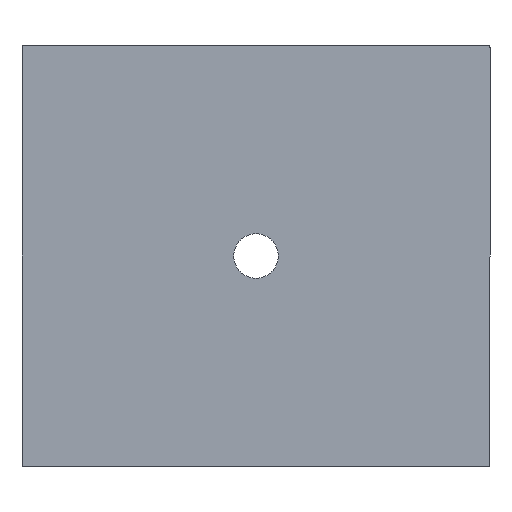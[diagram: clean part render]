
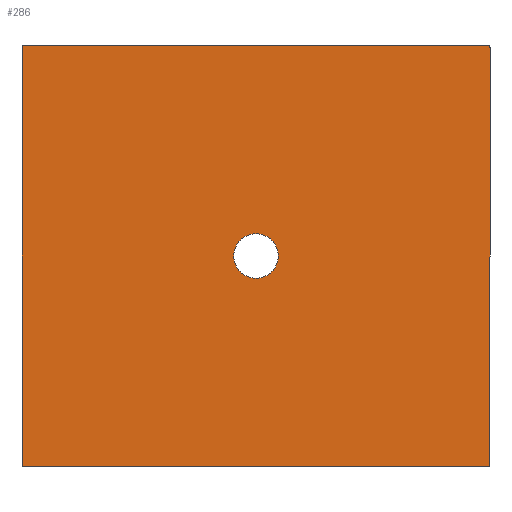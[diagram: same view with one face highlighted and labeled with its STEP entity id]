
A CAD part, front view. The second image highlights one B-rep face of the part: STEP entity #286.
In plain terms, the highlighted planar face has unit normal (0, -1, 0).
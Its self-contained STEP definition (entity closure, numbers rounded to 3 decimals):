
#61 = VERTEX_POINT ( 'NONE', #2167 ) ;
#78 = CARTESIAN_POINT ( 'NONE',  ( -500., 0., 445.001 ) ) ;
#120 = CARTESIAN_POINT ( 'NONE',  ( -500., 0., 445.001 ) ) ;
#146 = CARTESIAN_POINT ( 'NONE',  ( 0., 0., -47.5 ) ) ;
#177 = ORIENTED_EDGE ( 'NONE', *, *, #2613, .T. ) ;
#237 = EDGE_CURVE ( 'NONE', #61, #1786, #2459, .T. ) ;
#270 = PLANE ( 'NONE',  #3052 ) ;
#286 = ADVANCED_FACE ( 'NONE', ( #340, #320 ), #270, .F. ) ;
#289 = LINE ( 'NONE', #1175, #718 ) ;
#300 = DIRECTION ( 'NONE',  ( 0., 0., 1. ) ) ;
#320 = FACE_OUTER_BOUND ( 'NONE', #1452, .T. ) ;
#326 = VERTEX_POINT ( 'NONE', #1502 ) ;
#340 = FACE_BOUND ( 'NONE', #865, .T. ) ;
#360 = VERTEX_POINT ( 'NONE', #1038 ) ;
#461 =( BOUNDED_CURVE ( )  B_SPLINE_CURVE ( 3, ( #1297, #1794, #1809, #120 ),
 .UNSPECIFIED., .F., .T. ) 
 B_SPLINE_CURVE_WITH_KNOTS ( ( 4, 4 ),
 ( 5.498, 7.068 ),
 .UNSPECIFIED. ) 
 CURVE ( )  GEOMETRIC_REPRESENTATION_ITEM ( )  RATIONAL_B_SPLINE_CURVE ( ( 1., 0.805, 0.805, 1. ) ) 
 REPRESENTATION_ITEM ( '' )  );
#620 = CARTESIAN_POINT ( 'NONE',  ( -500., 0., -447.929 ) ) ;
#681 = ORIENTED_EDGE ( 'NONE', *, *, #2781, .T. ) ;
#718 = VECTOR ( 'NONE', #2186, 1000. ) ;
#758 = AXIS2_PLACEMENT_3D ( 'NONE', #2559, #1346, #1409 ) ;
#793 = CARTESIAN_POINT ( 'NONE',  ( 500., 0., -450. ) ) ;
#834 = VERTEX_POINT ( 'NONE', #3010 ) ;
#865 = EDGE_LOOP ( 'NONE', ( #2502 ) ) ;
#879 = ORIENTED_EDGE ( 'NONE', *, *, #237, .F. ) ;
#959 = ORIENTED_EDGE ( 'NONE', *, *, #1397, .F. ) ;
#973 = CARTESIAN_POINT ( 'NONE',  ( -500., 0., -445.001 ) ) ;
#1007 = ORIENTED_EDGE ( 'NONE', *, *, #1450, .T. ) ;
#1009 = CARTESIAN_POINT ( 'NONE',  ( 500., 0., -447.929 ) ) ;
#1026 = CARTESIAN_POINT ( 'NONE',  ( 497.929, 0., -450. ) ) ;
#1038 = CARTESIAN_POINT ( 'NONE',  ( 495.001, 0., -450. ) ) ;
#1043 = VERTEX_POINT ( 'NONE', #973 ) ;
#1096 =( BOUNDED_CURVE ( )  B_SPLINE_CURVE ( 3, ( #1456, #2418, #2685, #2954 ),
 .UNSPECIFIED., .F., .T. ) 
 B_SPLINE_CURVE_WITH_KNOTS ( ( 4, 4 ),
 ( 5.498, 7.068 ),
 .UNSPECIFIED. ) 
 CURVE ( )  GEOMETRIC_REPRESENTATION_ITEM ( )  RATIONAL_B_SPLINE_CURVE ( ( 1., 0.805, 0.805, 1. ) ) 
 REPRESENTATION_ITEM ( '' )  );
#1098 = CARTESIAN_POINT ( 'NONE',  ( 495.001, 0., 450. ) ) ;
#1138 = ORIENTED_EDGE ( 'NONE', *, *, #1599, .F. ) ;
#1175 = CARTESIAN_POINT ( 'NONE',  ( 500., 0., 450. ) ) ;
#1259 = EDGE_CURVE ( 'NONE', #2487, #2487, #2205, .T. ) ;
#1266 = DIRECTION ( 'NONE',  ( 1., 0., 0. ) ) ;
#1297 = CARTESIAN_POINT ( 'NONE',  ( -495.001, 0., 450. ) ) ;
#1323 = CARTESIAN_POINT ( 'NONE',  ( -495.001, 0., -450. ) ) ;
#1346 = DIRECTION ( 'NONE',  ( 0., -1., 0. ) ) ;
#1397 = EDGE_CURVE ( 'NONE', #360, #2390, #2730, .T. ) ;
#1409 = DIRECTION ( 'NONE',  ( 0., 0., -1. ) ) ;
#1411 =( BOUNDED_CURVE ( )  B_SPLINE_CURVE ( 3, ( #2702, #1026, #1009, #2055 ),
 .UNSPECIFIED., .F., .T. ) 
 B_SPLINE_CURVE_WITH_KNOTS ( ( 4, 4 ),
 ( 5.498, 7.068 ),
 .UNSPECIFIED. ) 
 CURVE ( )  GEOMETRIC_REPRESENTATION_ITEM ( )  RATIONAL_B_SPLINE_CURVE ( ( 1., 0.805, 0.805, 1. ) ) 
 REPRESENTATION_ITEM ( '' )  );
#1450 = EDGE_CURVE ( 'NONE', #61, #2700, #461, .T. ) ;
#1452 = EDGE_LOOP ( 'NONE', ( #959, #2563, #2816, #177, #879, #1007, #1138, #681 ) ) ;
#1456 = CARTESIAN_POINT ( 'NONE',  ( 500., 0., 445.001 ) ) ;
#1502 = CARTESIAN_POINT ( 'NONE',  ( 500., 0., 445.001 ) ) ;
#1556 = DIRECTION ( 'NONE',  ( -1., 0., 0. ) ) ;
#1599 = EDGE_CURVE ( 'NONE', #1043, #2700, #2091, .T. ) ;
#1647 = CARTESIAN_POINT ( 'NONE',  ( -500., 0., -450. ) ) ;
#1786 = VERTEX_POINT ( 'NONE', #1098 ) ;
#1794 = CARTESIAN_POINT ( 'NONE',  ( -497.929, 0., 450. ) ) ;
#1809 = CARTESIAN_POINT ( 'NONE',  ( -500., 0., 447.929 ) ) ;
#2055 = CARTESIAN_POINT ( 'NONE',  ( 500., 0., -445.001 ) ) ;
#2091 = LINE ( 'NONE', #1647, #2957 ) ;
#2167 = CARTESIAN_POINT ( 'NONE',  ( -495.001, 0., 450. ) ) ;
#2186 = DIRECTION ( 'NONE',  ( 0., 0., -1. ) ) ;
#2188 = EDGE_CURVE ( 'NONE', #326, #834, #289, .T. ) ;
#2205 = CIRCLE ( 'NONE', #758, 47.5 ) ;
#2250 = CARTESIAN_POINT ( 'NONE',  ( -500., 0., 450. ) ) ;
#2390 = VERTEX_POINT ( 'NONE', #2852 ) ;
#2418 = CARTESIAN_POINT ( 'NONE',  ( 500., 0., 447.929 ) ) ;
#2459 = LINE ( 'NONE', #2250, #2810 ) ;
#2487 = VERTEX_POINT ( 'NONE', #146 ) ;
#2502 = ORIENTED_EDGE ( 'NONE', *, *, #1259, .F. ) ;
#2559 = CARTESIAN_POINT ( 'NONE',  ( 0., 0., 0. ) ) ;
#2563 = ORIENTED_EDGE ( 'NONE', *, *, #2675, .T. ) ;
#2572 = DIRECTION ( 'NONE',  ( 0., 0., 1. ) ) ;
#2613 = EDGE_CURVE ( 'NONE', #326, #1786, #1096, .T. ) ;
#2617 =( BOUNDED_CURVE ( )  B_SPLINE_CURVE ( 3, ( #2723, #620, #2740, #1323 ),
 .UNSPECIFIED., .F., .F. ) 
 B_SPLINE_CURVE_WITH_KNOTS ( ( 4, 4 ),
 ( 5.498, 7.068 ),
 .UNSPECIFIED. ) 
 CURVE ( )  GEOMETRIC_REPRESENTATION_ITEM ( )  RATIONAL_B_SPLINE_CURVE ( ( 1., 0.805, 0.805, 1. ) ) 
 REPRESENTATION_ITEM ( '' )  );
#2675 = EDGE_CURVE ( 'NONE', #360, #834, #1411, .T. ) ;
#2685 = CARTESIAN_POINT ( 'NONE',  ( 497.929, 0., 450. ) ) ;
#2696 = CARTESIAN_POINT ( 'NONE',  ( 0., 0., 0. ) ) ;
#2700 = VERTEX_POINT ( 'NONE', #78 ) ;
#2702 = CARTESIAN_POINT ( 'NONE',  ( 495.001, 0., -450. ) ) ;
#2723 = CARTESIAN_POINT ( 'NONE',  ( -500., 0., -445.001 ) ) ;
#2730 = LINE ( 'NONE', #793, #2896 ) ;
#2740 = CARTESIAN_POINT ( 'NONE',  ( -497.929, 0., -450. ) ) ;
#2781 = EDGE_CURVE ( 'NONE', #1043, #2390, #2617, .T. ) ;
#2810 = VECTOR ( 'NONE', #1266, 1000. ) ;
#2816 = ORIENTED_EDGE ( 'NONE', *, *, #2188, .F. ) ;
#2852 = CARTESIAN_POINT ( 'NONE',  ( -495.001, 0., -450. ) ) ;
#2896 = VECTOR ( 'NONE', #1556, 1000. ) ;
#2954 = CARTESIAN_POINT ( 'NONE',  ( 495.001, 0., 450. ) ) ;
#2957 = VECTOR ( 'NONE', #2572, 1000. ) ;
#2963 = DIRECTION ( 'NONE',  ( 0., 1., 0. ) ) ;
#3010 = CARTESIAN_POINT ( 'NONE',  ( 500., 0., -445.001 ) ) ;
#3052 = AXIS2_PLACEMENT_3D ( 'NONE', #2696, #2963, #300 ) ;
